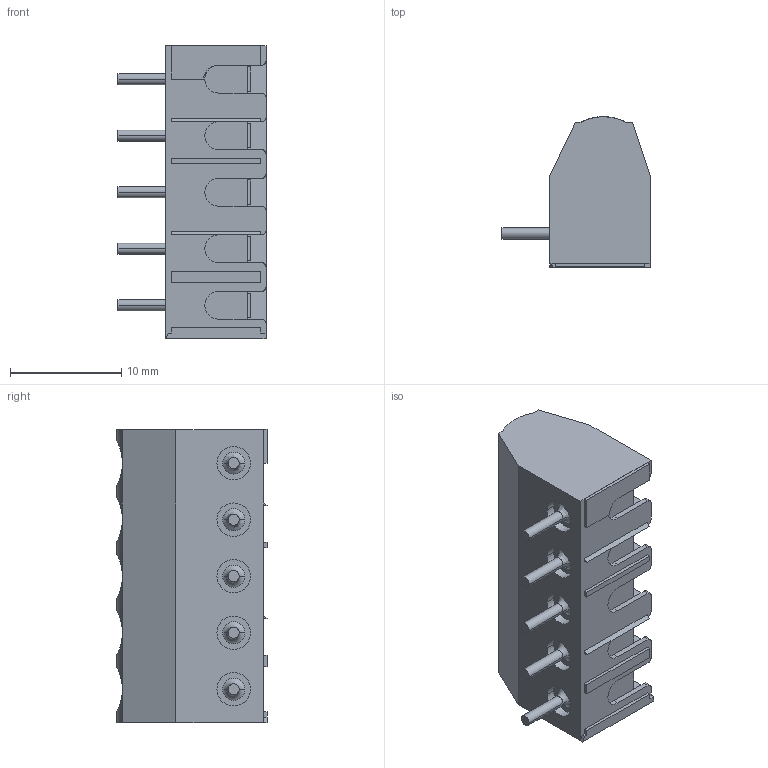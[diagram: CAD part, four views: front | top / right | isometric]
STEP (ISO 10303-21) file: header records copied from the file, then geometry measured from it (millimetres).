
FILE_DESCRIPTION (( 'STEP AP214' ), '1' );
FILE_NAME ('961-DS-05.STEP', '2008-09-11T15:18:16', ( 'weco' ), ( 'weco' ), 'SwSTEP 2.0', 'SolidWorks 2007', '' );
FILE_SCHEMA (( 'AUTOMOTIVE_DESIGN' ));
Length unit declared in the file: millimetre
Products named in the file (1): 961-DS-05
Bounding box: 13.3 x 13.49 x 26.36 mm (x, y, z)
Volume: 2436.8 mm3; surface area: 1997.1 mm2
Topology: 1 solids, 1 shells, 452 faces, 1344 edges, 881 vertices
Faces by surface type: plane 324, cylinder 97, cone 21, torus 6, bspline 4
Entity records: 15648 total; most frequent: CARTESIAN_POINT 3456, ORIENTED_EDGE 2688, DIRECTION 2395, EDGE_CURVE 1344, VECTOR 915, LINE 915, VERTEX_POINT 881, AXIS2_PLACEMENT_3D 740
